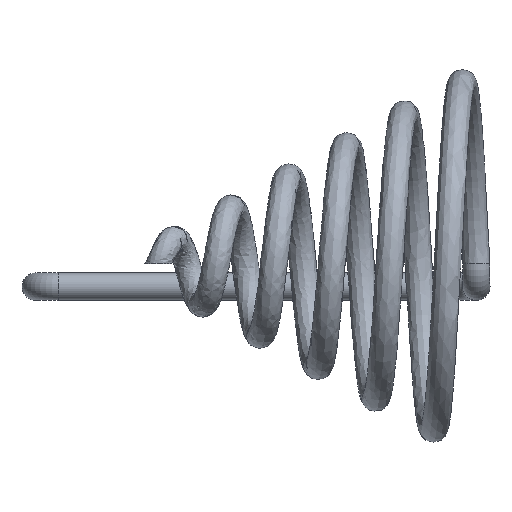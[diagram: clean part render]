
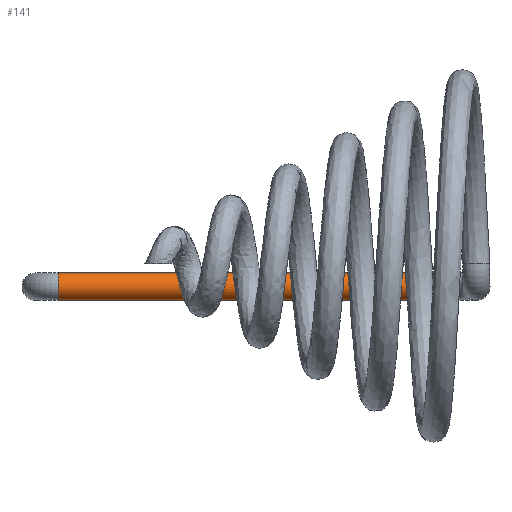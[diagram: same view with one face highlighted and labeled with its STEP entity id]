
A CAD part, left-side view. The second image highlights one B-rep face of the part: STEP entity #141.
In plain terms, the highlighted cylindrical face has radius 0.3 mm (diameter 0.6 mm), a full revolution.
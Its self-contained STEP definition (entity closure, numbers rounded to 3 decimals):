
#25=FACE_OUTER_BOUND('',#34,.T.);
#34=EDGE_LOOP('',(#104,#105,#106,#107,#108));
#41=LINE('',#252,#44);
#44=VECTOR('',#204,0.3);
#49=CIRCLE('',#167,0.3);
#50=CIRCLE('',#169,0.3);
#51=CIRCLE('',#170,0.3);
#64=VERTEX_POINT('',#247);
#65=VERTEX_POINT('',#251);
#66=VERTEX_POINT('',#253);
#79=EDGE_CURVE('',#64,#64,#49,.T.);
#80=EDGE_CURVE('',#64,#65,#41,.T.);
#81=EDGE_CURVE('',#65,#66,#50,.T.);
#82=EDGE_CURVE('',#66,#65,#51,.T.);
#104=ORIENTED_EDGE('',*,*,#79,.F.);
#105=ORIENTED_EDGE('',*,*,#80,.T.);
#106=ORIENTED_EDGE('',*,*,#81,.T.);
#107=ORIENTED_EDGE('',*,*,#82,.T.);
#108=ORIENTED_EDGE('',*,*,#80,.F.);
#136=CYLINDRICAL_SURFACE('',#168,0.3);
#141=ADVANCED_FACE('',(#25),#136,.T.);
#167=AXIS2_PLACEMENT_3D('',#249,#200,#201);
#168=AXIS2_PLACEMENT_3D('',#250,#202,#203);
#169=AXIS2_PLACEMENT_3D('',#254,#205,#206);
#170=AXIS2_PLACEMENT_3D('',#255,#207,#208);
#200=DIRECTION('center_axis',(0.,1.,0.));
#201=DIRECTION('ref_axis',(-1.,0.,0.));
#202=DIRECTION('center_axis',(0.,1.,0.));
#203=DIRECTION('ref_axis',(-1.,0.,0.));
#204=DIRECTION('',(0.,-1.,0.));
#205=DIRECTION('center_axis',(0.,1.,0.));
#206=DIRECTION('ref_axis',(-1.,0.,0.));
#207=DIRECTION('center_axis',(0.,1.,0.));
#208=DIRECTION('ref_axis',(-1.,0.,0.));
#247=CARTESIAN_POINT('',(14.1,9.2,-0.5));
#249=CARTESIAN_POINT('Origin',(13.8,9.2,-0.5));
#250=CARTESIAN_POINT('Origin',(13.8,0.5,-0.5));
#251=CARTESIAN_POINT('',(14.1,0.5,-0.5));
#252=CARTESIAN_POINT('',(14.1,0.5,-0.5));
#253=CARTESIAN_POINT('',(13.5,0.5,-0.5));
#254=CARTESIAN_POINT('Origin',(13.8,0.5,-0.5));
#255=CARTESIAN_POINT('Origin',(13.8,0.5,-0.5));
